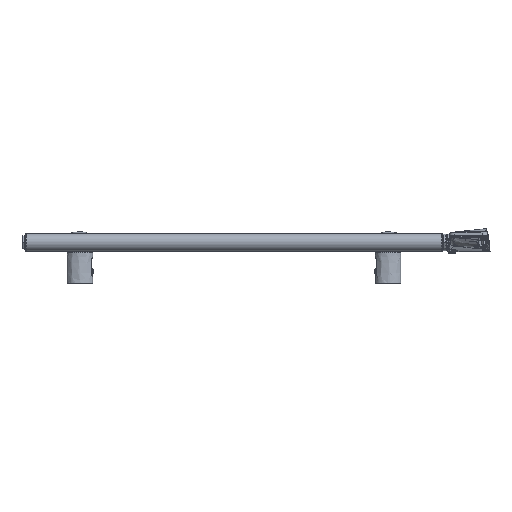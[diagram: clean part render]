
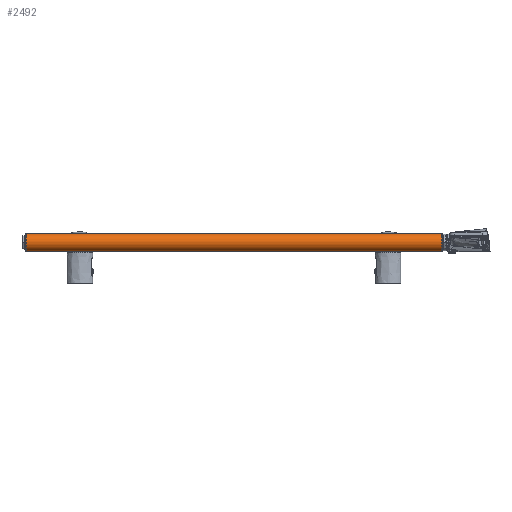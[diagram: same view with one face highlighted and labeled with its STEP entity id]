
A CAD part, left-side view. The second image highlights one B-rep face of the part: STEP entity #2492.
In plain terms, the highlighted cylindrical face has radius 15 mm (diameter 30 mm), a partial arc.
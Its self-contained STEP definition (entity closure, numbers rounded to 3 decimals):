
#938=DIRECTION('',(0.,1.,0.));
#939=VECTOR('',#938,698.4);
#940=CARTESIAN_POINT('',(-235.,-349.2,-15.));
#941=LINE('',#940,#939);
#1049=DIRECTION('',(0.,-1.,0.));
#1050=VECTOR('',#1049,698.4);
#1051=CARTESIAN_POINT('',(-235.,349.2,15.));
#1052=LINE('',#1051,#1050);
#1149=CARTESIAN_POINT('',(-235.,349.2,0.));
#1150=DIRECTION('',(0.,-1.,0.));
#1151=DIRECTION('',(0.,0.,1.));
#1152=AXIS2_PLACEMENT_3D('',#1149,#1150,#1151);
#1157=CARTESIAN_POINT('',(-235.,-349.2,0.));
#1158=DIRECTION('',(0.,1.,0.));
#1159=DIRECTION('',(0.,0.,-1.));
#1160=AXIS2_PLACEMENT_3D('',#1157,#1158,#1159);
#1690=CARTESIAN_POINT('',(-235.,349.2,15.));
#1692=VERTEX_POINT('',#1690);
#1697=CARTESIAN_POINT('',(-235.,349.2,-15.));
#1698=VERTEX_POINT('',#1697);
#1715=CARTESIAN_POINT('',(-235.,-349.2,15.));
#1717=VERTEX_POINT('',#1715);
#1719=CARTESIAN_POINT('',(-235.,-349.2,-15.));
#1720=VERTEX_POINT('',#1719);
#2480=CARTESIAN_POINT('',(-235.,1263.241,0.));
#2481=DIRECTION('',(0.,-1.,0.));
#2482=DIRECTION('',(0.,0.,1.));
#2483=AXIS2_PLACEMENT_3D('',#2480,#2481,#2482);
#2484=CYLINDRICAL_SURFACE('',#2483,15.);
#2486=ORIENTED_EDGE('',*,*,#2485,.F.);
#2487=ORIENTED_EDGE('',*,*,#2394,.T.);
#2488=ORIENTED_EDGE('',*,*,#2471,.F.);
#2489=ORIENTED_EDGE('',*,*,#2321,.T.);
#2490=EDGE_LOOP('',(#2486,#2487,#2488,#2489));
#2491=FACE_OUTER_BOUND('',#2490,.F.);
#1153=CIRCLE('',#1152,15.);
#1161=CIRCLE('',#1160,15.);
#2321=EDGE_CURVE('',#1720,#1698,#941,.T.);
#2394=EDGE_CURVE('',#1692,#1717,#1052,.T.);
#2471=EDGE_CURVE('',#1720,#1717,#1161,.T.);
#2485=EDGE_CURVE('',#1692,#1698,#1153,.T.);
#2492=ADVANCED_FACE('',(#2491),#2484,.T.);
